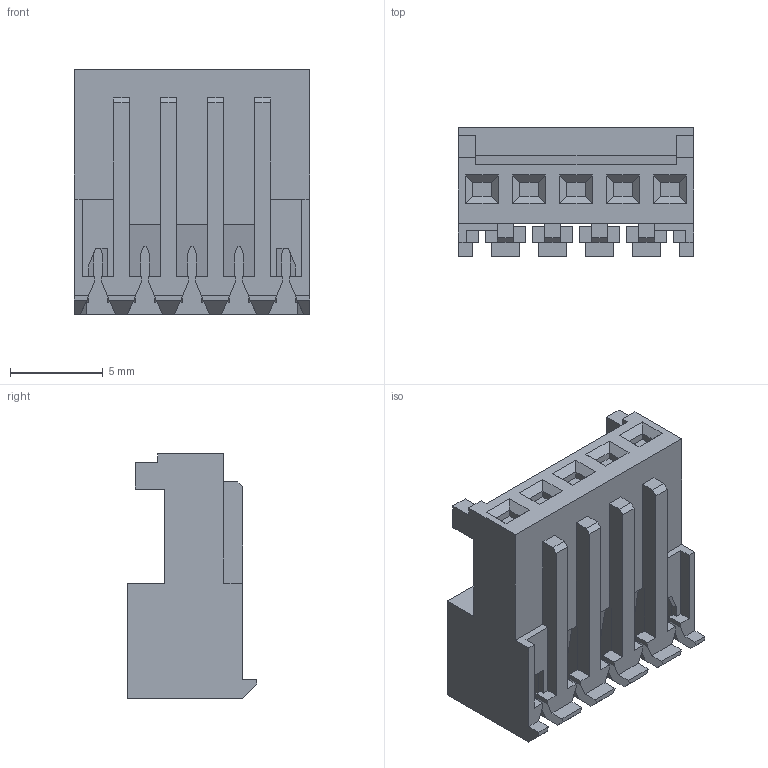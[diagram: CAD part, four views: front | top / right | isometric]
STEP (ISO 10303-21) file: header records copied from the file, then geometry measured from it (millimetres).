
FILE_DESCRIPTION (( 'STEP AP214' ), '1' );
FILE_NAME ('16684r1.STEP', '2011-07-11T14:01:59', ( 'Vicor User' ), ( 'Microsoft' ), 'SwSTEP 2.0', 'SolidWorks 2010', '' );
FILE_SCHEMA (( 'AUTOMOTIVE_DESIGN' ));
Length unit declared in the file: inch
Products named in the file (1): 16684r1
Bounding box: 12.7 x 6.99 x 13.21 mm (x, y, z)
Volume: 551 mm3; surface area: 1319.5 mm2
Topology: 1 solids, 1 shells, 456 faces, 1308 edges, 860 vertices
Faces by surface type: plane 436, cylinder 20
Entity records: 14644 total; most frequent: CARTESIAN_POINT 2625, ORIENTED_EDGE 2616, DIRECTION 2262, EDGE_CURVE 1308, LINE 1268, VECTOR 1268, VERTEX_POINT 860, AXIS2_PLACEMENT_3D 497
